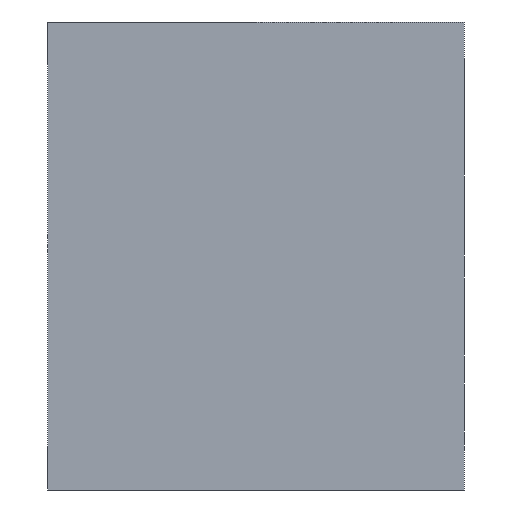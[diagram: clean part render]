
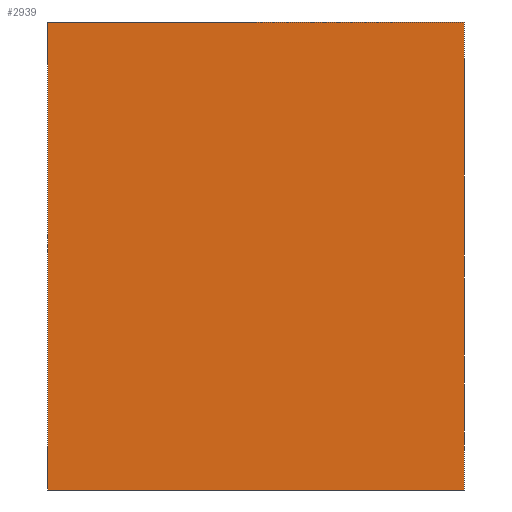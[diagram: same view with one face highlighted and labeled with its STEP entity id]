
A CAD part, left-side view. The second image highlights one B-rep face of the part: STEP entity #2939.
In plain terms, the highlighted planar face has unit normal (-1, 0, 0).
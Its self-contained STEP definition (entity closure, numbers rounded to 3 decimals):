
#22=DIRECTION('',(0.,0.,-1.));
#23=VECTOR('',#22,45.);
#24=CARTESIAN_POINT('',(0.,0.,0.));
#25=LINE('',#24,#23);
#30=DIRECTION('',(0.,1.,0.));
#31=VECTOR('',#30,40.);
#32=CARTESIAN_POINT('',(0.,0.,-45.));
#33=LINE('',#32,#31);
#37=DIRECTION('',(0.,0.,1.));
#38=VECTOR('',#37,45.);
#39=CARTESIAN_POINT('',(0.,40.,-45.));
#40=LINE('',#39,#38);
#44=DIRECTION('',(0.,-1.,0.));
#45=VECTOR('',#44,40.);
#46=CARTESIAN_POINT('',(0.,40.,0.));
#47=LINE('',#46,#45);
#2644=CARTESIAN_POINT('',(0.,0.,0.));
#2645=CARTESIAN_POINT('',(0.,0.,-45.));
#2646=VERTEX_POINT('',#2644);
#2647=VERTEX_POINT('',#2645);
#2648=CARTESIAN_POINT('',(0.,40.,-45.));
#2649=VERTEX_POINT('',#2648);
#2650=CARTESIAN_POINT('',(0.,40.,0.));
#2651=VERTEX_POINT('',#2650);
#2924=CARTESIAN_POINT('',(0.,0.,0.));
#2925=DIRECTION('',(1.,0.,0.));
#2926=DIRECTION('',(0.,0.,-1.));
#2927=AXIS2_PLACEMENT_3D('',#2924,#2925,#2926);
#2928=PLANE('',#2927);
#2930=ORIENTED_EDGE('',*,*,#2929,.T.);
#2932=ORIENTED_EDGE('',*,*,#2931,.T.);
#2934=ORIENTED_EDGE('',*,*,#2933,.T.);
#2936=ORIENTED_EDGE('',*,*,#2935,.T.);
#2937=EDGE_LOOP('',(#2930,#2932,#2934,#2936));
#2938=FACE_OUTER_BOUND('',#2937,.F.);
#2929=EDGE_CURVE('',#2646,#2647,#25,.T.);
#2931=EDGE_CURVE('',#2647,#2649,#33,.T.);
#2933=EDGE_CURVE('',#2649,#2651,#40,.T.);
#2935=EDGE_CURVE('',#2651,#2646,#47,.T.);
#2939=ADVANCED_FACE('',(#2938),#2928,.F.);
